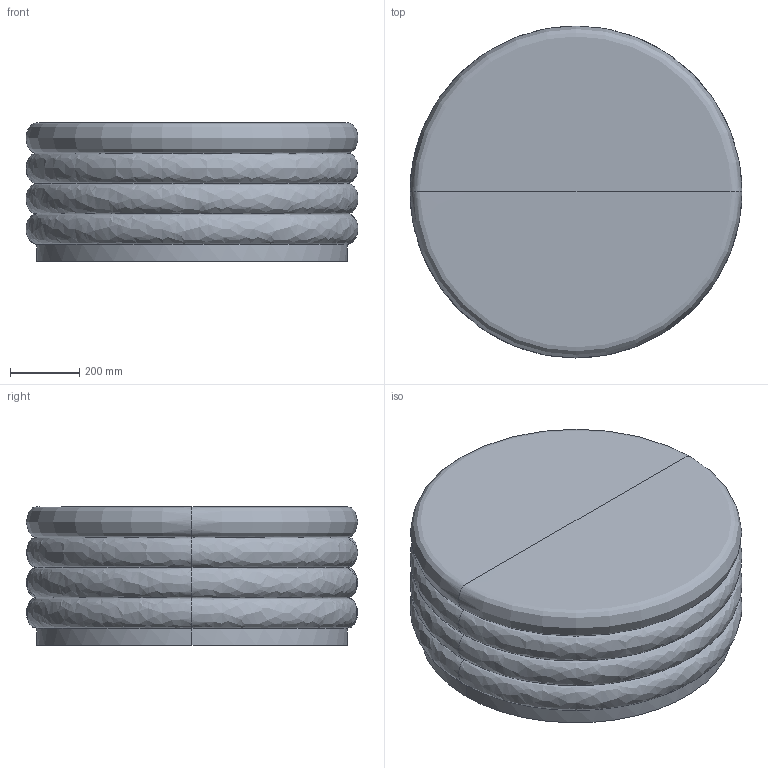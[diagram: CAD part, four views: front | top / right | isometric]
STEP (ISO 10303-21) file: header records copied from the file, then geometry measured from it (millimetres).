
FILE_DESCRIPTION(/* description */ (''),/* implementation_level */ '2;1');
FILE_NAME(/* name */ 'PVXGA5~Z',/* time_stamp */ '2018-04-03T11:25:34+02:00',/* author */ (''),/* organization */ (''),/* preprocessor_version */ 'ST-DEVELOPER v15',/* originating_system */ '',/* authorisation */ '');
FILE_SCHEMA (('AUTOMOTIVE_DESIGN'));
Length unit declared in the file: millimetre
Products named in the file (1): Document
Bounding box: 961.14 x 961.17 x 400.18 mm (x, y, z)
Surface area: 2790079.3 mm2 (no closed solid volume)
Topology: 0 solids, 2 shells, 12 faces, 28 edges, 15 vertices
Faces by surface type: bspline 12
Entity records: 810 total; most frequent: CARTESIAN_POINT 491, B_SPLINE_CURVE_WITH_KNOTS 50, ORIENTED_EDGE 46, PCURVE 46, DEFINITIONAL_REPRESENTATION 46, SURFACE_CURVE 26, EDGE_CURVE 26, VERTEX_POINT 15
